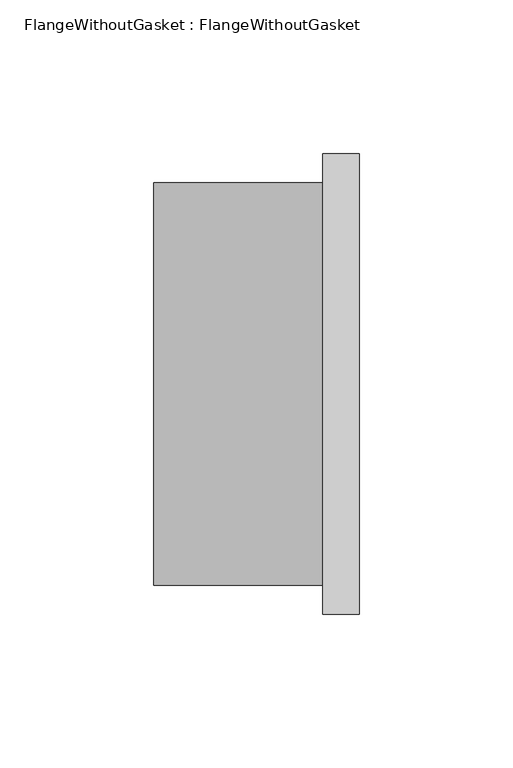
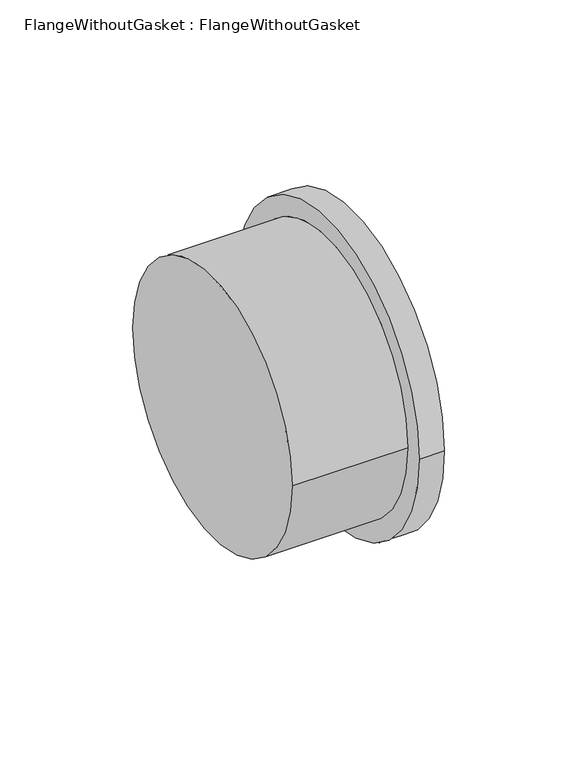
"""IFC4 building model written with IfcOpenShell, lengths in millimetres: pipe fitting geometry, FlangeWithoutGasket : FlangeWithoutGasket."""

from ifc_helpers import new_model, si_unit, frame, origin, place, context, project, spatial, circle_curve, source, transform, mapped, element, save
from ifc_brep_helpers import plane_surface, cylinder_surface, advanced_brep


def flangewithoutgasket_flangewithoutgasket_a6fb7cc9(model_context):
    return source(origin(), model_context, "Body", "AdvancedBrep", [
        advanced_brep(
        [(33.5, 75.0, 0.0), (33.5, -75.0, 0.0), (21.5, 75.0, 0.0), (21.5, -75.0, 0.0), (21.5, 65.5, 0.0), (21.5, -65.5, 0.0), (-33.5, -65.5, 0.0), (-33.5, 65.5, 0.0)],
        [
            (0, 1, circle_curve(frame((33.5, 0.0, 0.0), z_axis=(1.0, 0.0, 0.0), x_axis=(0.0, -1.0, 0.0)), 75.0)),
            (1, 0, circle_curve(frame((33.5, 0.0, 0.0), z_axis=(1.0, 0.0, 0.0), x_axis=(0.0, -1.0, 0.0)), 75.0)),
            (2, 3, circle_curve(frame((21.5, 0.0, 0.0), z_axis=(-1.0, 0.0, 0.0), x_axis=(0.0, -1.0, 0.0)), 75.0)),
            (3, 2, circle_curve(frame((21.5, 0.0, 0.0), z_axis=(-1.0, 0.0, 0.0), x_axis=(0.0, -1.0, 0.0)), 75.0)),
            (4, 5, circle_curve(frame((21.5, 0.0, 0.0), z_axis=(1.0, 0.0, 0.0), x_axis=(0.0, 1.0, 0.0)), 65.5)),
            (5, 4, circle_curve(frame((21.5, 0.0, 0.0), z_axis=(1.0, 0.0, 0.0), x_axis=(0.0, 1.0, 0.0)), 65.5)),
            (0, 2),
            (3, 1),
            (6, 7, circle_curve(frame((-33.5, 0.0, 0.0), z_axis=(-1.0, 0.0, 0.0), x_axis=(0.0, 1.0, 0.0)), 65.5)),
            (7, 6, circle_curve(frame((-33.5, 0.0, 0.0), z_axis=(-1.0, 0.0, 0.0), x_axis=(0.0, 1.0, 0.0)), 65.5)),
            (6, 5),
            (4, 7),
        ],
        [
            plane_surface(frame((33.5, 0.0, 0.0), z_axis=(1.0, 0.0, 0.0), x_axis=(0.0, 0.0, 1.0))),
            plane_surface(frame((21.5, 0.0, 0.0), z_axis=(-1.0, 0.0, 0.0), x_axis=(0.0, 0.0, 1.0))),
            cylinder_surface(frame((33.5, 0.0, 0.0), z_axis=(1.0, 0.0, 0.0), x_axis=(0.0, -1.0, 0.0)), 75.0),
            plane_surface(frame((-33.5, 0.0, 0.0), z_axis=(-1.0, 0.0, 0.0), x_axis=(0.0, 0.0, 1.0))),
            cylinder_surface(frame((-33.5, 0.0, 0.0), z_axis=(-1.0, 0.0, 0.0), x_axis=(0.0, 1.0, 0.0)), 65.5),
        ],
        [
            (0, [[1, 2]]),
            (1, [[3, 4], [5, 6]]),
            (2, [[-1, 7, -4, 8]]),
            (2, [[-2, -8, -3, -7]]),
            (3, [[9, 10]]),
            (4, [[-9, 11, -5, 12]]),
            (4, [[-10, -12, -6, -11]]),
        ],
    ),
    ])


if __name__ == "__main__":
    model = new_model("IFC4")
    model_context = context("Model", 3, world=origin())
    ifc_project = project(units=[si_unit("LENGTHUNIT", "METRE", prefix="MILLI")], contexts=[model_context])
    site = spatial("IfcSite", under=ifc_project)
    building = spatial("IfcBuilding", under=site)
    placement = place(None, origin())
    flangewithoutgasket_flangewithoutgasket_shape = flangewithoutgasket_flangewithoutgasket_a6fb7cc9(model_context)
    element("IfcPipeFitting", 1, ObjectType="FlangeWithoutGasket : FlangeWithoutGasket", at=placement, inside=building, context=model_context, shape_type="MappedRepresentation", body=[
        mapped(flangewithoutgasket_flangewithoutgasket_shape, transform((0.0, 0.0, 0.0), x_axis=(1.0, 0.0, 0.0), y_axis=(0.0, 1.0, 0.0), z_axis=(0.0, 0.0, 1.0))),
    ])
    save(model, "model.ifc")
